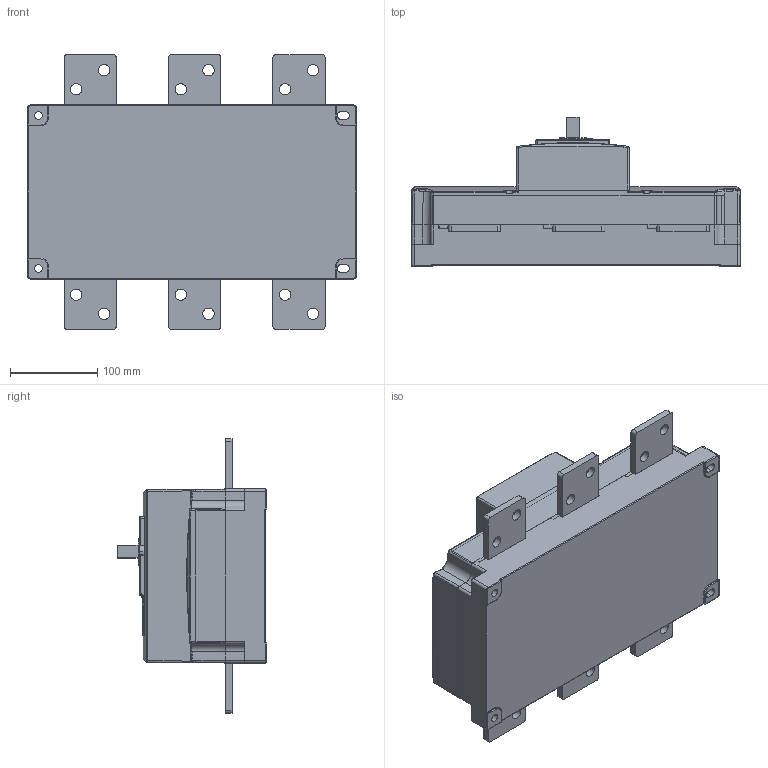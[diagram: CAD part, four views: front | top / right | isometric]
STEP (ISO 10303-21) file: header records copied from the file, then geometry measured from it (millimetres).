
FILE_DESCRIPTION((''),'2;1');
FILE_NAME('NH40-1000_ASM','2020-10-07T',('zhuanghy'),(''),'PRO/ENGINEER BY PARAMETRIC TECHNOLOGY CORPORATION, 2008380','PRO/ENGINEER BY PARAMETRIC TECHNOLOGY CORPORATION, 2008380','');
FILE_SCHEMA(('CONFIG_CONTROL_DESIGN'));
Length unit declared in the file: millimetre
Products named in the file (12): PRT0037; PRT0038; PRT0041; PRT0042; ASM0020_ASM; PRT0043; ASM0019_ASM; ASM0018_ASM; ASM0017_ASM; ASM0016_ASM; ASM0015_ASM; NH40-1000_ASM
Assembly tree (16 placements, depth 8):
  NH40-1000_ASM
    ASM0015_ASM
      ASM0016_ASM
        ASM0017_ASM
          ASM0018_ASM
            ASM0019_ASM
              ASM0020_ASM
                PRT0037
                PRT0038
                PRT0041
                PRT0042
              PRT0043  x6
Bounding box: 378 x 172 x 316 mm (x, y, z)
Volume: 9659436.7 mm3; surface area: 1102282.4 mm2
Topology: 10 solids, 14 shells, 2387 faces, 6394 edges, 3868 vertices
Faces by surface type: cylinder 995, plane 955, sphere 189, torus 134, bspline 94, cone 20
Entity records: 80175 total; most frequent: CARTESIAN_POINT 24784, ORIENTED_EDGE 11850, DIRECTION 11211, EDGE_CURVE 5932, AXIS2_PLACEMENT_3D 3923, VERTEX_POINT 3678, VECTOR 3365, LINE 3365
